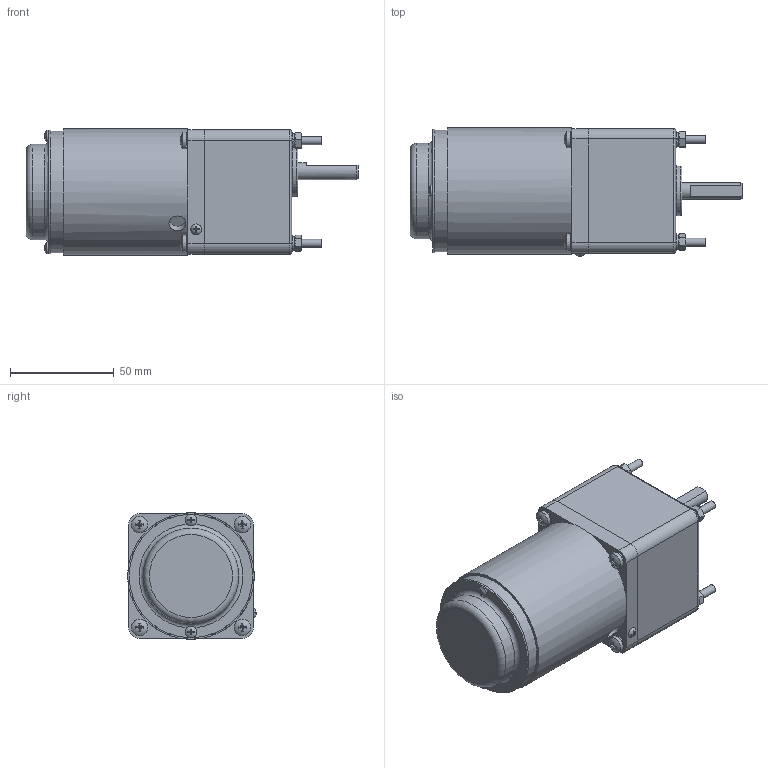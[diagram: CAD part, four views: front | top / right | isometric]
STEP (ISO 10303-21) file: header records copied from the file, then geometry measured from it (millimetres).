
FILE_DESCRIPTION(/* description */ (''),/* implementation_level */ '2;1');
FILE_NAME(/* name */ '60高箱T-6W调速.stp',/* time_stamp */ '2022-10-31T08:31:15+08:00',/* author */ (''),/* organization */ (''),/* preprocessor_version */ 'ST-DEVELOPER v16.7',/* originating_system */ 'SIEMENS PLM Software NX 1899',/* authorisation */ '');
FILE_SCHEMA (('AP203_CONFIGURATION_CONTROLLED_3D_DESIGN_OF_MECHANICAL_PARTS_AND_ASSEMBLIES_MIM_LF { 1 0 10303 403 2 1 2}'));
Length unit declared in the file: millimetre
Products named in the file (1): yf186188FEB6lc27
Bounding box: 160 x 61.99 x 61 mm (x, y, z)
Volume: 392017.9 mm3; surface area: 52197.9 mm2
Topology: 24 solids, 26 shells, 413 faces, 952 edges, 608 vertices
Faces by surface type: plane 175, bspline 84, cylinder 75, cone 61, torus 12, sphere 6
Full cylindrical faces by diameter (mm): 3 x1, 3.432 x4, 3.838 x4, 4 x4, 4.3 x8, 5.5 x4, 5.6 x2, 6 x5, 8 x13, 8.2 x1, 24 x1, 30 x1, 46 x1, 52.6 x1, 57 x2, 58.5 x1, 59.5 x1, 61 x1
Entity records: 12957 total; most frequent: CARTESIAN_POINT 3597, ORIENTED_EDGE 1692, DIRECTION 1430, EDGE_CURVE 846, AXIS2_PLACEMENT_3D 617, VERTEX_POINT 587, EDGE_LOOP 553, ADVANCED_FACE 413
